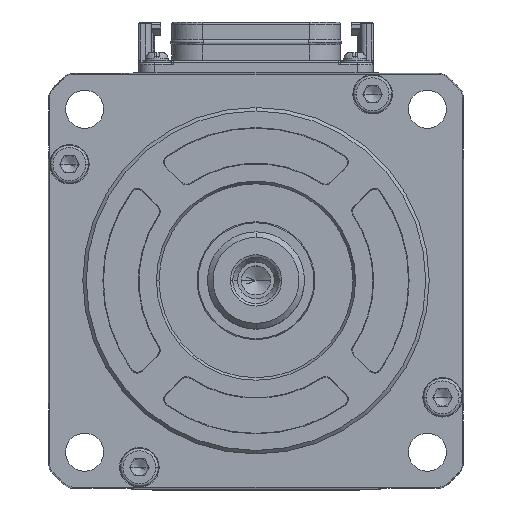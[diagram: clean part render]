
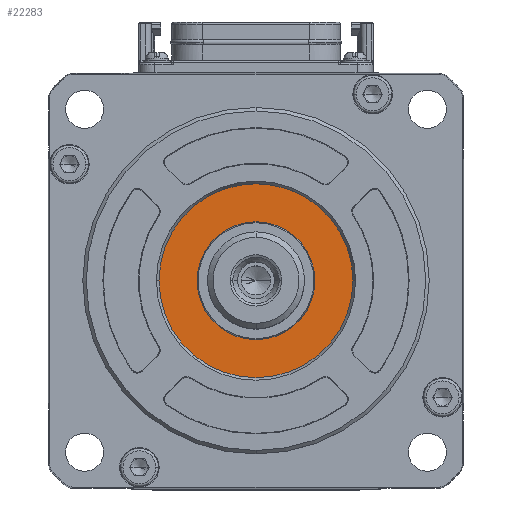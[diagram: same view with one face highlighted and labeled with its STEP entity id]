
A CAD part, top view. The second image highlights one B-rep face of the part: STEP entity #22283.
In plain terms, the highlighted planar face has unit normal (0, 0, 1).
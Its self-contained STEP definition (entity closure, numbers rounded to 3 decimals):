
#846 = VERTEX_POINT ( 'NONE', #21058 ) ;
#4338 = DIRECTION ( 'NONE',  ( 0., 1., 0. ) ) ;
#4583 = FACE_OUTER_BOUND ( 'NONE', #60211, .T. ) ;
#5472 = CIRCLE ( 'NONE', #7713, 14. ) ;
#6997 = EDGE_CURVE ( 'NONE', #47602, #846, #82493, .T. ) ;
#7061 = CARTESIAN_POINT ( 'NONE',  ( 0., -14., 44.347 ) ) ;
#7228 = CARTESIAN_POINT ( 'NONE',  ( 0., 0., 44.347 ) ) ;
#7713 = AXIS2_PLACEMENT_3D ( 'NONE', #62475, #54897, #20000 ) ;
#9606 = VERTEX_POINT ( 'NONE', #81357 ) ;
#13566 = DIRECTION ( 'NONE',  ( 0., 0., -1. ) ) ;
#14684 = EDGE_CURVE ( 'NONE', #846, #47602, #26317, .T. ) ;
#16571 = DIRECTION ( 'NONE',  ( 0., 0., 1. ) ) ;
#17448 = CARTESIAN_POINT ( 'NONE',  ( 0., 0., 44.347 ) ) ;
#20000 = DIRECTION ( 'NONE',  ( 0., 1., 0. ) ) ;
#20817 = CIRCLE ( 'NONE', #51584, 14. ) ;
#20842 = AXIS2_PLACEMENT_3D ( 'NONE', #65424, #30719, #86457 ) ;
#21058 = CARTESIAN_POINT ( 'NONE',  ( 8.5, 0., 44.347 ) ) ;
#22283 = ADVANCED_FACE ( 'NONE', ( #22859, #4583 ), #71364, .T. ) ;
#22859 = FACE_BOUND ( 'NONE', #50433, .T. ) ;
#25772 = AXIS2_PLACEMENT_3D ( 'NONE', #31943, #66605, #4338 ) ;
#26317 = CIRCLE ( 'NONE', #20842, 8.5 ) ;
#30719 = DIRECTION ( 'NONE',  ( 0., 0., 1. ) ) ;
#31943 = CARTESIAN_POINT ( 'NONE',  ( 0., 0., 44.347 ) ) ;
#32453 = ORIENTED_EDGE ( 'NONE', *, *, #14684, .F. ) ;
#36702 = ORIENTED_EDGE ( 'NONE', *, *, #6997, .F. ) ;
#39559 = AXIS2_PLACEMENT_3D ( 'NONE', #17448, #16571, #64741 ) ;
#47602 = VERTEX_POINT ( 'NONE', #65999 ) ;
#50433 = EDGE_LOOP ( 'NONE', ( #36702, #32453 ) ) ;
#51584 = AXIS2_PLACEMENT_3D ( 'NONE', #7228, #13566, #82483 ) ;
#54665 = EDGE_CURVE ( 'NONE', #9606, #65796, #5472, .T. ) ;
#54897 = DIRECTION ( 'NONE',  ( 0., 0., -1. ) ) ;
#60091 = ORIENTED_EDGE ( 'NONE', *, *, #72883, .F. ) ;
#60211 = EDGE_LOOP ( 'NONE', ( #68279, #60091 ) ) ;
#62475 = CARTESIAN_POINT ( 'NONE',  ( 0., 0., 44.347 ) ) ;
#64741 = DIRECTION ( 'NONE',  ( 0., 1., 0. ) ) ;
#65424 = CARTESIAN_POINT ( 'NONE',  ( 0., 0., 44.347 ) ) ;
#65796 = VERTEX_POINT ( 'NONE', #7061 ) ;
#65999 = CARTESIAN_POINT ( 'NONE',  ( -8.5, 0., 44.347 ) ) ;
#66605 = DIRECTION ( 'NONE',  ( 0., 0., 1. ) ) ;
#68279 = ORIENTED_EDGE ( 'NONE', *, *, #54665, .F. ) ;
#71364 = PLANE ( 'NONE',  #39559 ) ;
#72883 = EDGE_CURVE ( 'NONE', #65796, #9606, #20817, .T. ) ;
#81357 = CARTESIAN_POINT ( 'NONE',  ( 0., 14., 44.347 ) ) ;
#82483 = DIRECTION ( 'NONE',  ( 0., 1., 0. ) ) ;
#82493 = CIRCLE ( 'NONE', #25772, 8.5 ) ;
#86457 = DIRECTION ( 'NONE',  ( 0., 1., 0. ) ) ;
